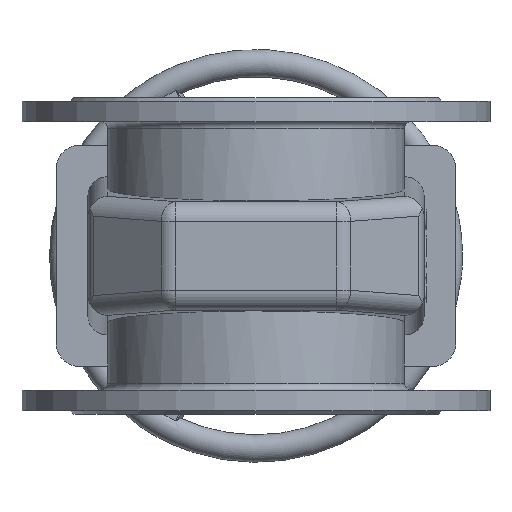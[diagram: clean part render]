
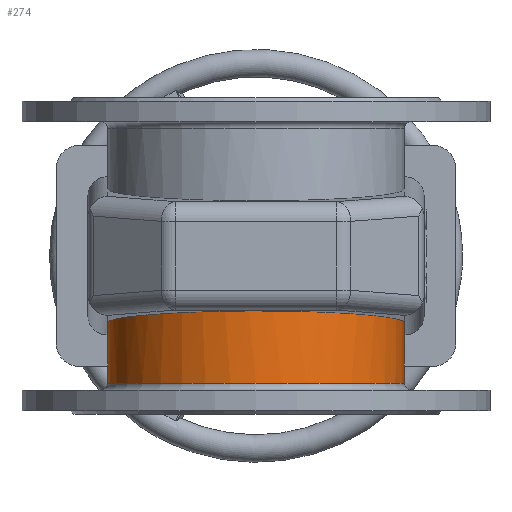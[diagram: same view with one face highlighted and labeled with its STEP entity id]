
A CAD part, front view. The second image highlights one B-rep face of the part: STEP entity #274.
In plain terms, the highlighted cylindrical face has radius 107.812 mm (diameter 215.625 mm), a full revolution.
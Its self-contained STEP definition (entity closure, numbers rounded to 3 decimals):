
#274=ADVANCED_FACE('',(#2294,#2296),#2298,.T.);
#2294=FACE_BOUND('',#2295,.T.);
#2295=EDGE_LOOP('',(#7871,#7872));
#2296=FACE_OUTER_BOUND('',#2297,.T.);
#2297=EDGE_LOOP('',(#7873));
#2298=CYLINDRICAL_SURFACE('',#2299,107.813);
#2299=AXIS2_PLACEMENT_3D('',#2300,#2301,#2302);
#2300=CARTESIAN_POINT('',(0.,0.,100.625));
#2301=DIRECTION('',(0.,0.,-1.));
#2302=DIRECTION('',(-1.,0.,0.));
#7871=ORIENTED_EDGE('',*,*,#9447,.T.);
#7872=ORIENTED_EDGE('',*,*,#9449,.T.);
#7873=ORIENTED_EDGE('',*,*,#9475,.F.);
#9447=EDGE_CURVE('',#10481,#10469,#10674,.T.);
#9449=EDGE_CURVE('',#10469,#10481,#10676,.T.);
#9475=EDGE_CURVE('',#10716,#10716,#10717,.T.);
#10469=VERTEX_POINT('',#12673);
#10481=VERTEX_POINT('',#12708);
#10674=(BOUNDED_CURVE()B_SPLINE_CURVE(3,
(#13182,#13183,#13184,#13185),
.UNSPECIFIED.,.F.,.F.)B_SPLINE_CURVE_WITH_KNOTS((4,4),
(0.,1.),
.UNSPECIFIED.)CURVE()GEOMETRIC_REPRESENTATION_ITEM()RATIONAL_B_SPLINE_CURVE((1.,
0.333,0.333,1.))REPRESENTATION_ITEM(''));
#10676=(BOUNDED_CURVE()B_SPLINE_CURVE(3,
(#13190,#13191,#13192,#13193),
.UNSPECIFIED.,.F.,.F.)B_SPLINE_CURVE_WITH_KNOTS((4,4),
(0.,1.),
.UNSPECIFIED.)CURVE()GEOMETRIC_REPRESENTATION_ITEM()RATIONAL_B_SPLINE_CURVE((1.,
0.333,0.333,1.))REPRESENTATION_ITEM(''));
#10716=VERTEX_POINT('',#13295);
#10717=CIRCLE('',#13296,107.813);
#12673=CARTESIAN_POINT('',(-107.813,0.,-48.48));
#12708=CARTESIAN_POINT('',(107.813,0.,-48.48));
#13182=CARTESIAN_POINT('',(107.813,0.,-48.48));
#13183=CARTESIAN_POINT('',(107.812,-215.625,-31.569));
#13184=CARTESIAN_POINT('',(-107.813,-215.625,-31.569));
#13185=CARTESIAN_POINT('',(-107.813,0.,-48.48));
#13190=CARTESIAN_POINT('',(-107.813,0.,-48.48));
#13191=CARTESIAN_POINT('',(-107.813,215.625,-65.392));
#13192=CARTESIAN_POINT('',(107.813,215.625,-65.392));
#13193=CARTESIAN_POINT('',(107.813,0.,-48.48));
#13295=CARTESIAN_POINT('',(-107.813,0.,-92.5));
#13296=AXIS2_PLACEMENT_3D('',#13297,#13298,#13299);
#13297=CARTESIAN_POINT('',(0.,0.,-92.5));
#13298=DIRECTION('',(0.,0.,-1.));
#13299=DIRECTION('',(-1.,0.,0.));
